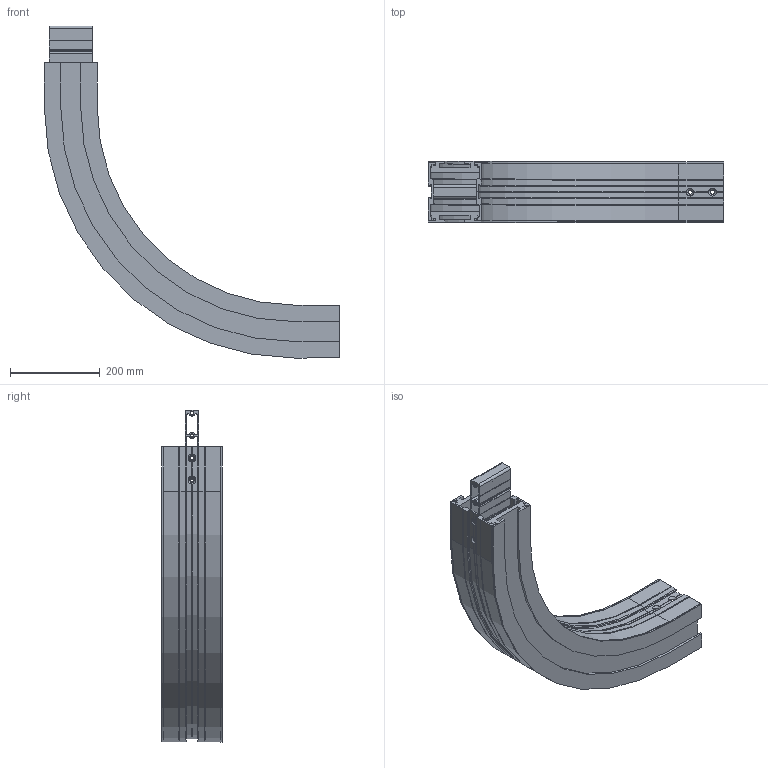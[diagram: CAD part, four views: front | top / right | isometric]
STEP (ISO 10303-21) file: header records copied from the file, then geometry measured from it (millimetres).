
FILE_DESCRIPTION (( 'STEP AP203' ), '1' );
FILE_NAME ('R3C500-90.STEP', '2009-01-13T08:23:02', ( 'faber' ), ( '' ), 'SwSTEP 2.0', 'SolidWorks 2008', '' );
FILE_SCHEMA (( 'CONFIG_CONTROL_DESIGN' ));
Length unit declared in the file: millimetre
Products named in the file (1): R3C500-90
Bounding box: 659 x 136 x 740.75 mm (x, y, z)
Surface area: 1172284.4 mm2 (no closed solid volume)
Topology: 0 solids, 9 shells, 388 faces, 1524 edges, 1070 vertices
Faces by surface type: plane 175, cylinder 171, cone 24, torus 18
Entity records: 15899 total; most frequent: CARTESIAN_POINT 3079, DIRECTION 2772, ORIENTED_EDGE 2364, EDGE_CURVE 1524, VERTEX_POINT 1070, VECTOR 990, LINE 990, AXIS2_PLACEMENT_3D 891
